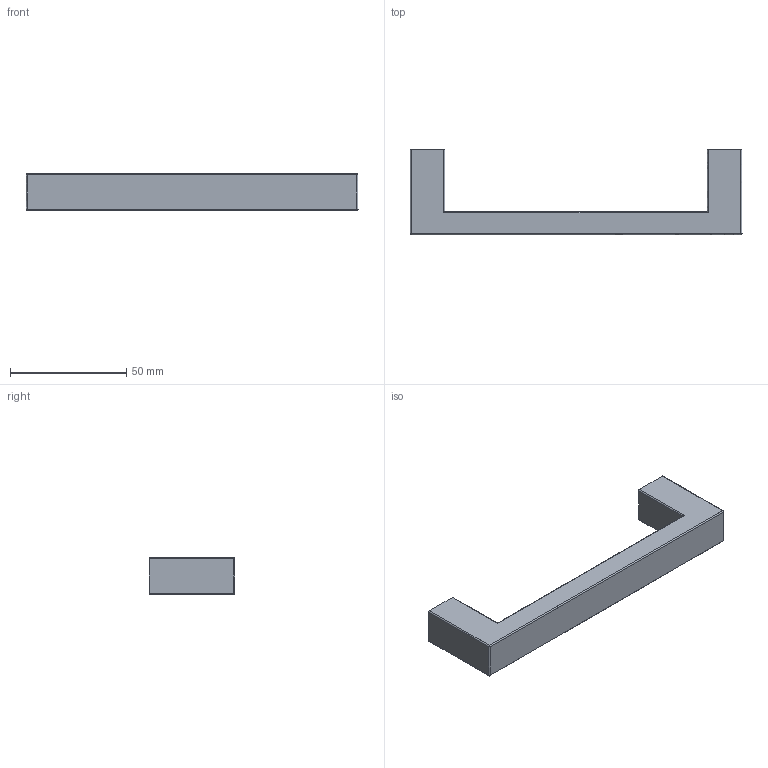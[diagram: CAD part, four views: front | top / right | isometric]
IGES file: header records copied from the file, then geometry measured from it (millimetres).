
Start section: Data from Parasolid IGES Translator 15.0.47, Copyright(c) 2006 Siemens P LM Software. All Rights Reserved.
Global section: file name: 9069804.igs; native system:  By UGS Corp.; preprocessor: XPlus GENERIC/IGES 3.0; author: Noname; organization: Noname; date: 20140122.181637; units: millimetre
Bounding box: 143.01 x 37.01 x 16.01 mm (x, y, z)
Surface area: 11126.9 mm2 (no closed solid volume)
Topology: 0 solids, 0 shells, 34 faces, 164 edges, 162 vertices
Faces by surface type: revolution 18, extrusion 16
